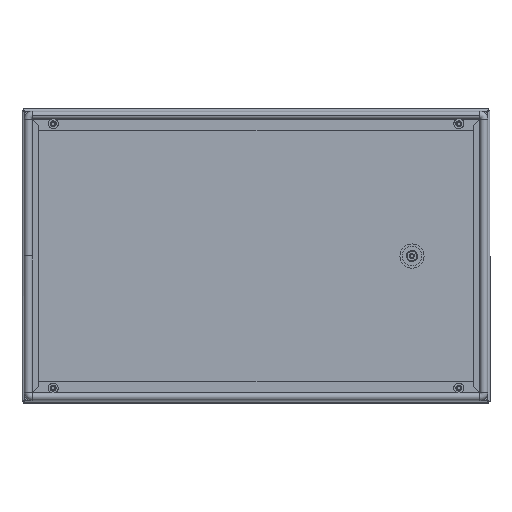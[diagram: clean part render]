
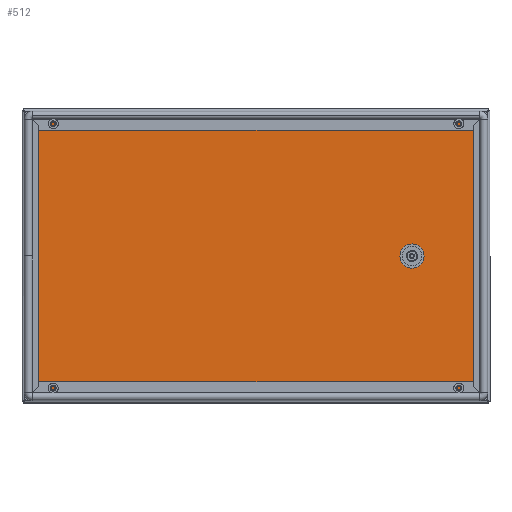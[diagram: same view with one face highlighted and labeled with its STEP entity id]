
A CAD part, top view. The second image highlights one B-rep face of the part: STEP entity #512.
In plain terms, the highlighted planar face has unit normal (0, 0, 1).
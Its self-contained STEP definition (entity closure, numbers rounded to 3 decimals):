
#28 = AXIS2_PLACEMENT_3D ( 'NONE', #1549, #4378, #11851 ) ;
#182 = CARTESIAN_POINT ( 'NONE',  ( 297.1, -185., 1.4 ) ) ;
#262 = EDGE_CURVE ( 'NONE', #2213, #4373, #10071, .T. ) ;
#360 = PLANE ( 'NONE',  #4481 ) ;
#376 = EDGE_CURVE ( 'NONE', #9664, #6729, #11160, .T. ) ;
#380 = EDGE_CURVE ( 'NONE', #8291, #9664, #6407, .T. ) ;
#440 = DIRECTION ( 'NONE',  ( 1., 0., 0. ) ) ;
#512 = ADVANCED_FACE ( 'NONE', ( #4928, #8780 ), #360, .T. ) ;
#592 = VECTOR ( 'NONE', #10362, 1000. ) ;
#707 = DIRECTION ( 'NONE',  ( 1., 0., 0. ) ) ;
#774 = ORIENTED_EDGE ( 'NONE', *, *, #4466, .F. ) ;
#875 = DIRECTION ( 'NONE',  ( -1., 0., 0. ) ) ;
#987 = CARTESIAN_POINT ( 'NONE',  ( -298.459, 185.6, 1.4 ) ) ;
#1121 = DIRECTION ( 'NONE',  ( 1., 0., 0. ) ) ;
#1164 = DIRECTION ( 'NONE',  ( 1., 0., 0. ) ) ;
#1181 = CARTESIAN_POINT ( 'NONE',  ( 200., 0., 1.4 ) ) ;
#1417 = CARTESIAN_POINT ( 'NONE',  ( -297.1, 185., 1.4 ) ) ;
#1549 = CARTESIAN_POINT ( 'NONE',  ( 297.1, -185.6, 1.4 ) ) ;
#1656 = CIRCLE ( 'NONE', #5582, 0.6 ) ;
#1733 = ORIENTED_EDGE ( 'NONE', *, *, #11949, .F. ) ;
#1800 = CARTESIAN_POINT ( 'NONE',  ( 298.459, -185.6, 1.4 ) ) ;
#1855 = EDGE_LOOP ( 'NONE', ( #774, #3171 ) ) ;
#1888 = CARTESIAN_POINT ( 'NONE',  ( 215.5, 0., 1.4 ) ) ;
#2086 = DIRECTION ( 'NONE',  ( 0., 0., 1. ) ) ;
#2151 = CARTESIAN_POINT ( 'NONE',  ( -296.5, -185.6, 1.4 ) ) ;
#2213 = VERTEX_POINT ( 'NONE', #10797 ) ;
#2290 = DIRECTION ( 'NONE',  ( 1., 0., 0. ) ) ;
#2307 = ORIENTED_EDGE ( 'NONE', *, *, #6125, .F. ) ;
#2667 = DIRECTION ( 'NONE',  ( 1., 0., 0. ) ) ;
#2924 = VECTOR ( 'NONE', #9227, 1000. ) ;
#2973 = CARTESIAN_POINT ( 'NONE',  ( -297.1, 185.6, 1.4 ) ) ;
#3016 = CARTESIAN_POINT ( 'NONE',  ( 0., 0., 1.4 ) ) ;
#3171 = ORIENTED_EDGE ( 'NONE', *, *, #11989, .F. ) ;
#3350 = EDGE_CURVE ( 'NONE', #6729, #7061, #3930, .T. ) ;
#3365 = CIRCLE ( 'NONE', #28, 0.6 ) ;
#3531 = CARTESIAN_POINT ( 'NONE',  ( 296.5, 185.6, 1.4 ) ) ;
#3542 = LINE ( 'NONE', #7277, #9447 ) ;
#3629 = CIRCLE ( 'NONE', #9480, 15.5 ) ;
#3848 = VERTEX_POINT ( 'NONE', #4311 ) ;
#3930 = LINE ( 'NONE', #6854, #592 ) ;
#4028 = CARTESIAN_POINT ( 'NONE',  ( 297.1, 185.6, 1.4 ) ) ;
#4311 = CARTESIAN_POINT ( 'NONE',  ( 297.1, 185., 1.4 ) ) ;
#4373 = VERTEX_POINT ( 'NONE', #3531 ) ;
#4378 = DIRECTION ( 'NONE',  ( 0., 0., 1. ) ) ;
#4466 = EDGE_CURVE ( 'NONE', #11313, #6771, #7262, .T. ) ;
#4481 = AXIS2_PLACEMENT_3D ( 'NONE', #3016, #2086, #1164 ) ;
#4526 = CARTESIAN_POINT ( 'NONE',  ( 184.5, 0., 1.4 ) ) ;
#4928 = FACE_OUTER_BOUND ( 'NONE', #6783, .T. ) ;
#5582 = AXIS2_PLACEMENT_3D ( 'NONE', #2973, #6707, #1121 ) ;
#5738 = ORIENTED_EDGE ( 'NONE', *, *, #262, .F. ) ;
#6125 = EDGE_CURVE ( 'NONE', #8516, #8291, #3365, .T. ) ;
#6264 = CARTESIAN_POINT ( 'NONE',  ( -297.1, -185., 1.4 ) ) ;
#6407 = LINE ( 'NONE', #1800, #10544 ) ;
#6707 = DIRECTION ( 'NONE',  ( 0., 0., 1. ) ) ;
#6729 = VERTEX_POINT ( 'NONE', #6264 ) ;
#6771 = VERTEX_POINT ( 'NONE', #4526 ) ;
#6783 = EDGE_LOOP ( 'NONE', ( #5738, #1733, #10085, #10281, #8538, #2307, #9622, #10936 ) ) ;
#6854 = CARTESIAN_POINT ( 'NONE',  ( -297.1, -186.959, 1.4 ) ) ;
#7061 = VERTEX_POINT ( 'NONE', #1417 ) ;
#7262 = CIRCLE ( 'NONE', #8646, 15.5 ) ;
#7277 = CARTESIAN_POINT ( 'NONE',  ( 297.1, 186.959, 1.4 ) ) ;
#7308 = AXIS2_PLACEMENT_3D ( 'NONE', #4028, #10575, #2290 ) ;
#7317 = DIRECTION ( 'NONE',  ( 0., 0., 1. ) ) ;
#7978 = EDGE_CURVE ( 'NONE', #3848, #8516, #3542, .T. ) ;
#8192 = DIRECTION ( 'NONE',  ( 0., 0., 1. ) ) ;
#8291 = VERTEX_POINT ( 'NONE', #10454 ) ;
#8364 = EDGE_CURVE ( 'NONE', #4373, #3848, #9273, .T. ) ;
#8516 = VERTEX_POINT ( 'NONE', #182 ) ;
#8538 = ORIENTED_EDGE ( 'NONE', *, *, #380, .F. ) ;
#8646 = AXIS2_PLACEMENT_3D ( 'NONE', #10015, #9835, #707 ) ;
#8780 = FACE_BOUND ( 'NONE', #1855, .T. ) ;
#9227 = DIRECTION ( 'NONE',  ( 1., 0., 0. ) ) ;
#9273 = CIRCLE ( 'NONE', #7308, 0.6 ) ;
#9447 = VECTOR ( 'NONE', #11028, 1000. ) ;
#9480 = AXIS2_PLACEMENT_3D ( 'NONE', #1181, #8192, #440 ) ;
#9622 = ORIENTED_EDGE ( 'NONE', *, *, #7978, .F. ) ;
#9664 = VERTEX_POINT ( 'NONE', #2151 ) ;
#9835 = DIRECTION ( 'NONE',  ( 0., 0., 1. ) ) ;
#10015 = CARTESIAN_POINT ( 'NONE',  ( 200., 0., 1.4 ) ) ;
#10071 = LINE ( 'NONE', #987, #2924 ) ;
#10085 = ORIENTED_EDGE ( 'NONE', *, *, #3350, .F. ) ;
#10281 = ORIENTED_EDGE ( 'NONE', *, *, #376, .F. ) ;
#10362 = DIRECTION ( 'NONE',  ( 0., 1., 0. ) ) ;
#10454 = CARTESIAN_POINT ( 'NONE',  ( 296.5, -185.6, 1.4 ) ) ;
#10544 = VECTOR ( 'NONE', #875, 1000. ) ;
#10575 = DIRECTION ( 'NONE',  ( 0., 0., 1. ) ) ;
#10797 = CARTESIAN_POINT ( 'NONE',  ( -296.5, 185.6, 1.4 ) ) ;
#10936 = ORIENTED_EDGE ( 'NONE', *, *, #8364, .F. ) ;
#11028 = DIRECTION ( 'NONE',  ( 0., -1., 0. ) ) ;
#11150 = AXIS2_PLACEMENT_3D ( 'NONE', #12048, #7317, #2667 ) ;
#11160 = CIRCLE ( 'NONE', #11150, 0.6 ) ;
#11313 = VERTEX_POINT ( 'NONE', #1888 ) ;
#11851 = DIRECTION ( 'NONE',  ( 1., 0., 0. ) ) ;
#11949 = EDGE_CURVE ( 'NONE', #7061, #2213, #1656, .T. ) ;
#11989 = EDGE_CURVE ( 'NONE', #6771, #11313, #3629, .T. ) ;
#12048 = CARTESIAN_POINT ( 'NONE',  ( -297.1, -185.6, 1.4 ) ) ;
